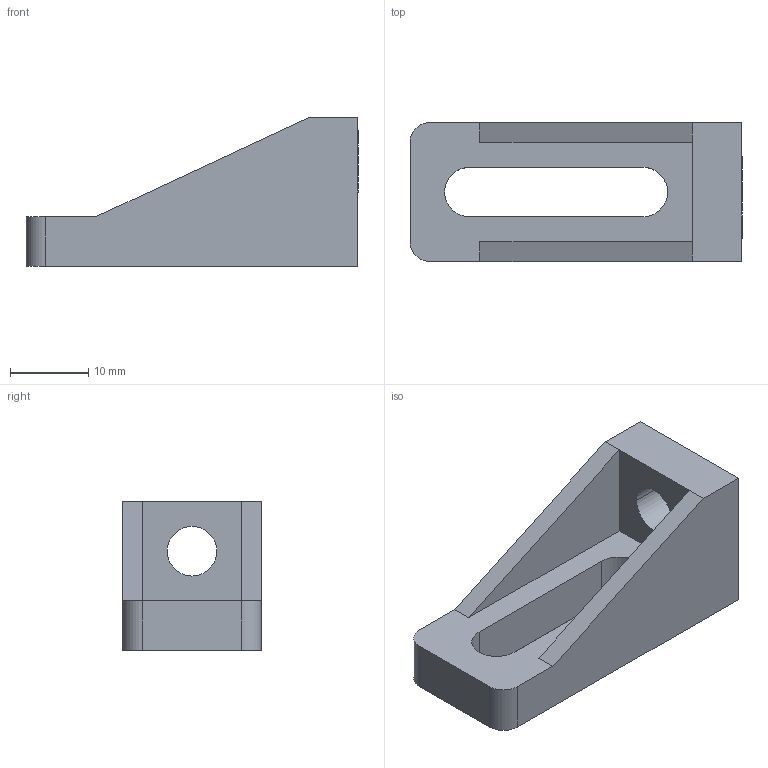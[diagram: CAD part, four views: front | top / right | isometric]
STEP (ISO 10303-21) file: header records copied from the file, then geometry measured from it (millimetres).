
FILE_DESCRIPTION (( 'STEP AP203' ), '1' );
FILE_NAME ('Foot.STEP', '2017-11-08T01:08:26', ( '' ), ( '' ), 'SwSTEP 2.0', 'SolidWorks 2016', '' );
FILE_SCHEMA (( 'CONFIG_CONTROL_DESIGN' ));
Length unit declared in the file: inch
Products named in the file (1): Foot
Bounding box: 42.55 x 17.78 x 19.05 mm (x, y, z)
Volume: 5799.9 mm3; surface area: 3640.8 mm2
Topology: 1 solids, 1 shells, 21 faces, 55 edges, 36 vertices
Faces by surface type: plane 14, cylinder 7
Entity records: 734 total; most frequent: CARTESIAN_POINT 113, DIRECTION 113, ORIENTED_EDGE 110, EDGE_CURVE 55, VECTOR 41, LINE 41, AXIS2_PLACEMENT_3D 36, VERTEX_POINT 36
